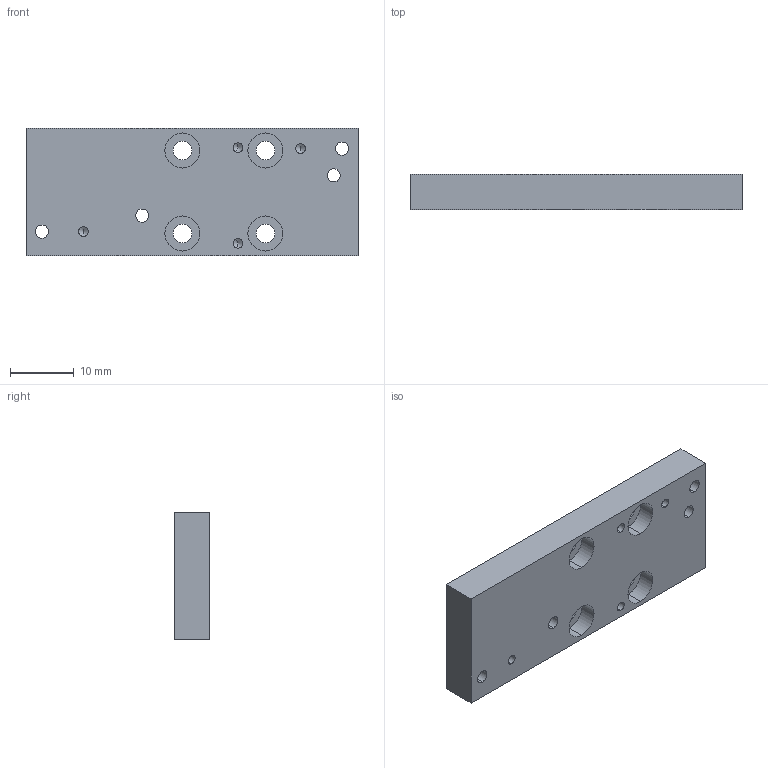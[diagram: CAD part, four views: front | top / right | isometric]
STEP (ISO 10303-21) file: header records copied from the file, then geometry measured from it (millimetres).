
FILE_DESCRIPTION (( 'STEP AP203' ), '1' );
FILE_NAME ('430169-A Adapter Plate XY Base VT-21.STEP', '2008-12-18T00:14:36', ( '' ), ( '' ), 'SwSTEP 2.0', 'SolidWorks 2008', '' );
FILE_SCHEMA (( 'CONFIG_CONTROL_DESIGN' ));
Length unit declared in the file: millimetre
Products named in the file (1): 430169-A Adapter Plate XY Base VT-21
Bounding box: 52 x 5.5 x 20 mm (x, y, z)
Volume: 5278.1 mm3; surface area: 3323.8 mm2
Topology: 1 solids, 1 shells, 58 faces, 144 edges, 86 vertices
Faces by surface type: cylinder 36, cone 12, plane 10
Entity records: 1769 total; most frequent: DIRECTION 322, CARTESIAN_POINT 277, ORIENTED_EDGE 264, EDGE_CURVE 132, AXIS2_PLACEMENT_3D 131, VERTEX_POINT 86, EDGE_LOOP 84, CIRCLE 72
